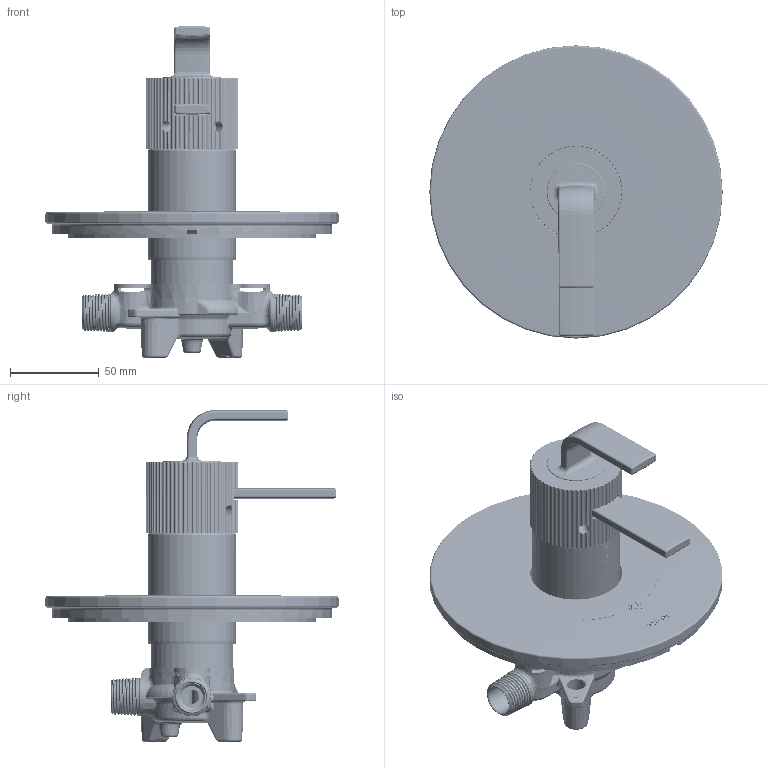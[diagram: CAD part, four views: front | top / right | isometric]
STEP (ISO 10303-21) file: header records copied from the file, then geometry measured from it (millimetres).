
FILE_DESCRIPTION (( 'STEP AP203' ), '1' );
FILE_NAME ('sku_uts4581series_stp.STEP', '2026-04-14T10:31:04', ( '' ), ( '' ), 'SwSTEP 2.0', 'SolidWorks 2025', '' );
FILE_SCHEMA (( 'CONFIG_CONTROL_DESIGN' ));
Length unit declared in the file: inch
Products named in the file (71): DUP_390-247_390-247_Part184_Part143; 470-026_BASE_470-026_BASE_Part177_Part136; 306-321_306-321_Part220_Part179; 210-100-OBSOLETE_210-100-obsolete_Part185_Part144; 470-022_470-022_Part215_Part174; 218-267-S_218-267-S_Part194_Part153; 218-347-S_218-347-S_Part189_Part148; 470-033_470-033_Part190_Part149; 210673_Unexplode_Assem37_Assem30; 470-016_470-016_Part202_Part161; 230-250-OBSOLETE_230-250-OBSOLETE_Part193_Part152; 470-025_470-025_Part203_Part162; 470-009_470-009_Part206_Part165; 216039SERIES_FBIN_MM_ASSY_Assem42_Assem35; 218-204-S_218-204-S_Part207_Part166; 210341SERIES_210341SERIES_BREP_Part238_Part192; 470-008_470-008_Part197_Part156; 197632_1_197632_1_BREP_Part228_Part187; 470-018_470-018_Part210_Part169; 470-002_AS_ASSEMBLED_470-002_AS_ASSEMBLED_Part182_Part141; 218-140-S_218-140-S_Part216_Part175; 470-012_470-012_Part201_Part160; 470-030_470-030_Part176_Part135; 152-030_152-030_BREP_Part221_Part180; 216037SERIES_Part2_Part231_Part190; 470-026_STEM_470-026_STEM_Part179_Part138; 470-021_470-021_Part209_Part168; 197655_197655_BREP_Part229_Part188; 470-028_470-028_Part174_Part133; 216048SERIES_Part1_Part235_Part191; 470-006_470-006_Part186_Part145; 197697_197697_Part218_Part177; SKU_UTS4581SERIES_SKU_UTS4581SERIES_Assem43_Assem36; 196490_196490_Part224_Part183; 470-026_Unexplode_Assem36_Assem29; 216036SERIES_Part1_Part230_Part189; 7936_Unexplode_Assem38_Assem31; sku_uts4581series_stp; 470-027_470-027_Part204_Part163; 105506_105506_Part219_Part178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
Assembly tree (75 placements, depth 7):
  sku_uts4581series_stp
    SKU_UTS4581SERIES_SKU_UTS4581SERIES_Assem43_Assem36
      6075_tpb_valve_Unexplode_Assem40_Assem33
        210674_Unexplode_Assem39_Assem32
          210673_Unexplode_Assem37_Assem30
            9505_piston-filters_Unexplode_Assem35_Assem28
              470-028_470-028_Part174_Part133
              470-029_470-029_Part175_Part134
              470-030_470-030_Part176_Part135
            470-026_Unexplode_Assem36_Assem29
              470-026_BASE_470-026_BASE_Part177_Part136
              470-026_STEM_HOUSING_470-026_STEM_HOUSING_Part178_Part137
              470-026_STEM_470-026_STEM_Part179_Part138
              470-026_SLEEVE_470-026_SLEEVE_Part180_Part139
            210539_210539_BREP_Part181_Part140
            470-002_AS_ASSEMBLED_470-002_AS_ASSEMBLED_Part182_Part141
            DUP_390-322_390-322_Part183_Part142
            DUP_390-247_390-247_Part184_Part143
            210-100-OBSOLETE_210-100-obsolete_Part185_Part144  x2
            470-006_470-006_Part186_Part145
            218-442-S_218-442-S_Part187_Part146
            210538_210538_Part188_Part147
            218-347-S_218-347-S_Part189_Part148  x2
            470-033_470-033_Part190_Part149
            470-031_470-031_Part191_Part150
            470-032_470-032_Part192_Part151
            230-250-OBSOLETE_230-250-OBSOLETE_Part193_Part152
            218-267-S_218-267-S_Part194_Part153
            142-050_142-050_BREP_Part195_Part154
            450-105_450-105_Part196_Part155
            470-008_470-008_Part197_Part156
            470-007_470-007_Part198_Part157
            470-014_470-014_Part199_Part158
            470-011_470-011_Part200_Part159
            470-012_470-012_Part201_Part160
            470-016_470-016_Part202_Part161
            470-025_470-025_Part203_Part162
            470-027_470-027_Part204_Part163
            470-023_470-023_Part205_Part164
            470-009_470-009_Part206_Part165
            218-204-S_218-204-S_Part207_Part166
            470-024_470-024_Part208_Part167
            470-021_470-021_Part209_Part168
            470-018_470-018_Part210_Part169
            470-020_470-020_Part211_Part170
            470-019_470-019_Part212_Part171
            470-015_470-015_Part213_Part172
            460-001_460-001_Part214_Part173
            470-022_470-022_Part215_Part174
            218-140-S_218-140-S_Part216_Part175  x2
            218-077_218-077_BREP_Part217_Part176
            197697_197697_Part218_Part177
            105506_105506_Part219_Part178
          7936_Unexplode_Assem38_Assem31
            306-321_306-321_Part220_Part179
            152-030_152-030_BREP_Part221_Part180  x2
        195756_195756_Part222_Part181
        210540_210540_Part223_Part182
        196490_196490_Part224_Part183  x2
        202758_202758_BREP_Part225_Part184
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Bounding box: 165.06 x 165.06 x 186.87 mm (x, y, z)
Volume: 354771.7 mm3; surface area: 326095.3 mm2
Topology: 71 solids, 71 shells, 15449 faces, 42373 edges, 26972 vertices
Faces by surface type: plane 8422, cylinder 2763, bspline 1796, torus 1350, cone 812, sphere 306
Entity records: 678029 total; most frequent: CARTESIAN_POINT 313708, ORIENTED_EDGE 83788, DIRECTION 67089, EDGE_CURVE 41894, AXIS2_PLACEMENT_3D 27006, VERTEX_POINT 26739, EDGE_LOOP 17247, ADVANCED_FACE 15344
